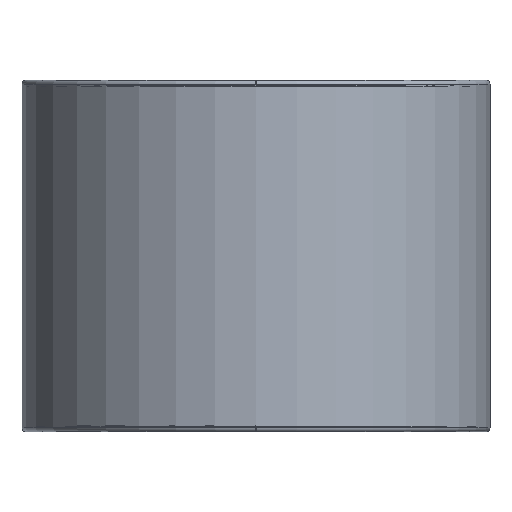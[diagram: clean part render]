
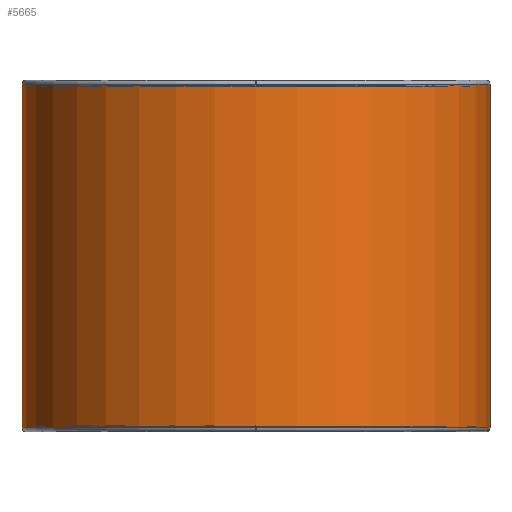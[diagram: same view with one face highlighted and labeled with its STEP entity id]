
A CAD part, front view. The second image highlights one B-rep face of the part: STEP entity #5665.
In plain terms, the highlighted cylindrical face has radius 150.5 mm (diameter 301 mm), a partial arc.
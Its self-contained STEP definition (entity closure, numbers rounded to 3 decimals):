
#767=FACE_OUTER_BOUND('',#1137,.T.);
#1137=EDGE_LOOP('',(#4624,#4625,#4626,#4627));
#1538=LINE('',#11943,#1930);
#1542=LINE('',#11955,#1934);
#1930=VECTOR('',#7368,304.8);
#1934=VECTOR('',#7380,304.8);
#2237=CIRCLE('',#6191,150.5);
#2239=CIRCLE('',#6195,150.5);
#2718=VERTEX_POINT('',#11940);
#2719=VERTEX_POINT('',#11942);
#2721=VERTEX_POINT('',#11948);
#2723=VERTEX_POINT('',#11954);
#3430=EDGE_CURVE('',#2719,#2718,#1538,.T.);
#3433=EDGE_CURVE('',#2721,#2719,#2237,.T.);
#3436=EDGE_CURVE('',#2723,#2721,#1542,.T.);
#3439=EDGE_CURVE('',#2718,#2723,#2239,.T.);
#4624=ORIENTED_EDGE('',*,*,#3439,.T.);
#4625=ORIENTED_EDGE('',*,*,#3436,.T.);
#4626=ORIENTED_EDGE('',*,*,#3433,.T.);
#4627=ORIENTED_EDGE('',*,*,#3430,.T.);
#5441=CYLINDRICAL_SURFACE('',#6197,150.5);
#5665=ADVANCED_FACE('',(#767),#5441,.T.);
#6191=AXIS2_PLACEMENT_3D('',#11949,#7374,#7375);
#6195=AXIS2_PLACEMENT_3D('',#11959,#7386,#7387);
#6197=AXIS2_PLACEMENT_3D('',#11961,#7390,#7391);
#7368=DIRECTION('',(0.,0.,-1.));
#7374=DIRECTION('center_axis',(0.,0.,-1.));
#7375=DIRECTION('ref_axis',(0.,-1.,0.));
#7380=DIRECTION('',(0.,0.,1.));
#7386=DIRECTION('center_axis',(0.,0.,1.));
#7387=DIRECTION('ref_axis',(0.,-1.,0.));
#7390=DIRECTION('center_axis',(0.,0.,-1.));
#7391=DIRECTION('ref_axis',(0.,-1.,0.));
#11940=CARTESIAN_POINT('',(-150.5,-0.246,-23.));
#11942=CARTESIAN_POINT('',(-150.5,-0.246,198.));
#11943=CARTESIAN_POINT('',(-150.5,-0.246,198.));
#11948=CARTESIAN_POINT('',(150.5,-0.246,198.));
#11949=CARTESIAN_POINT('Origin',(0.,-0.246,
198.));
#11954=CARTESIAN_POINT('',(150.5,-0.246,-23.));
#11955=CARTESIAN_POINT('',(150.5,-0.246,-23.));
#11959=CARTESIAN_POINT('Origin',(0.,-0.246,
-23.));
#11961=CARTESIAN_POINT('Origin',(0.,-0.246,
-23.01));
